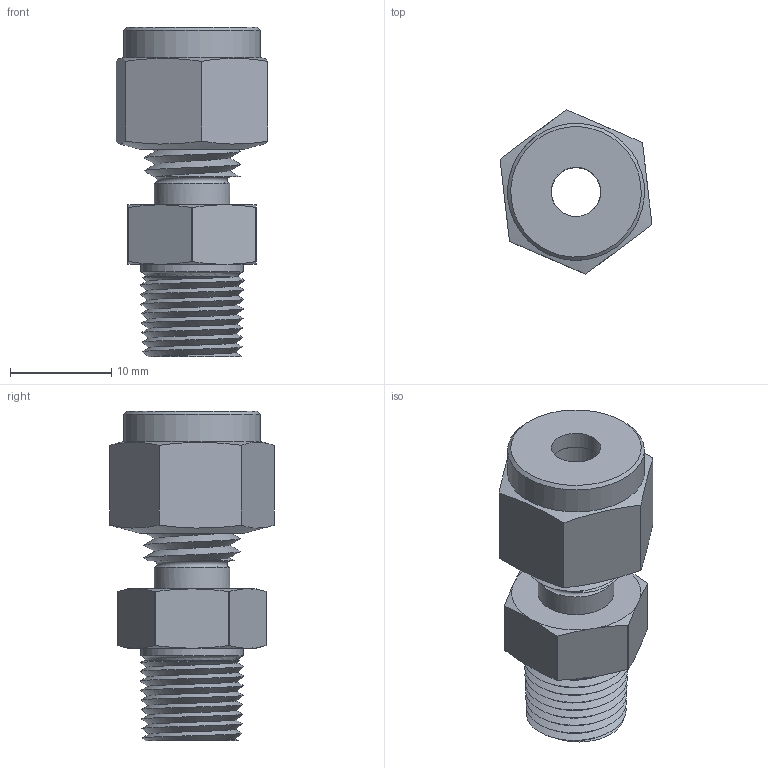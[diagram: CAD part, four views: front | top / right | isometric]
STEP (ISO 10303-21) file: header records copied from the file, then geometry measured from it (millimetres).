
FILE_DESCRIPTION(/* description */ (''),/* implementation_level */ '2;1');
FILE_NAME(/* name */ 'C:\Users\JN\Documents\CAD Drawings\The Sensor Connection\3D\CF\CF-0250-18-NPT\3D\CF-187-18-NPT.stp',/* time_stamp */ '2017-11-01T11:18:21-04:00',/* author */ ('JN'),/* organization */ (''),/* preprocessor_version */ 'ST-DEVELOPER v15.6',/* originating_system */ 'Autodesk Inventor 2015',/* authorisation */ '');
FILE_SCHEMA (('AUTOMOTIVE_DESIGN { 1 0 10303 214 3 1 1 }'));
Length unit declared in the file: inch
Products named in the file (5): CF-0187-NPT Bottom Ferrule; CF-0187-NPT Cap; CF-0187-NPT Top Ferrule; CF-0187-18-NPT Threaded Body; CF-187-18-NPT
Assembly tree (4 placements, depth 2):
  CF-187-18-NPT
    CF-0187-NPT Bottom Ferrule
    CF-0187-NPT Cap
    CF-0187-NPT Top Ferrule
    CF-0187-18-NPT Threaded Body
Bounding box: 15.01 x 16.24 x 32.53 mm (x, y, z)
Volume: 2940.9 mm3; surface area: 3533.2 mm2
Topology: 4 solids, 4 shells, 80 faces, 202 edges, 134 vertices
Faces by surface type: plane 30, cone 21, cylinder 18, bspline 7, torus 4
Full cylindrical faces by diameter (mm): 4.877 x4, 6.096 x1, 6.121 x1, 7.493 x2, 7.531 x1, 9.677 x1, 10.16 x1, 13.525 x1
Entity records: 5901 total; most frequent: CARTESIAN_POINT 4143, ORIENTED_EDGE 334, DIRECTION 318, EDGE_CURVE 167, AXIS2_PLACEMENT_3D 143, VERTEX_POINT 122, EDGE_LOOP 115, FACE_OUTER_BOUND 80
